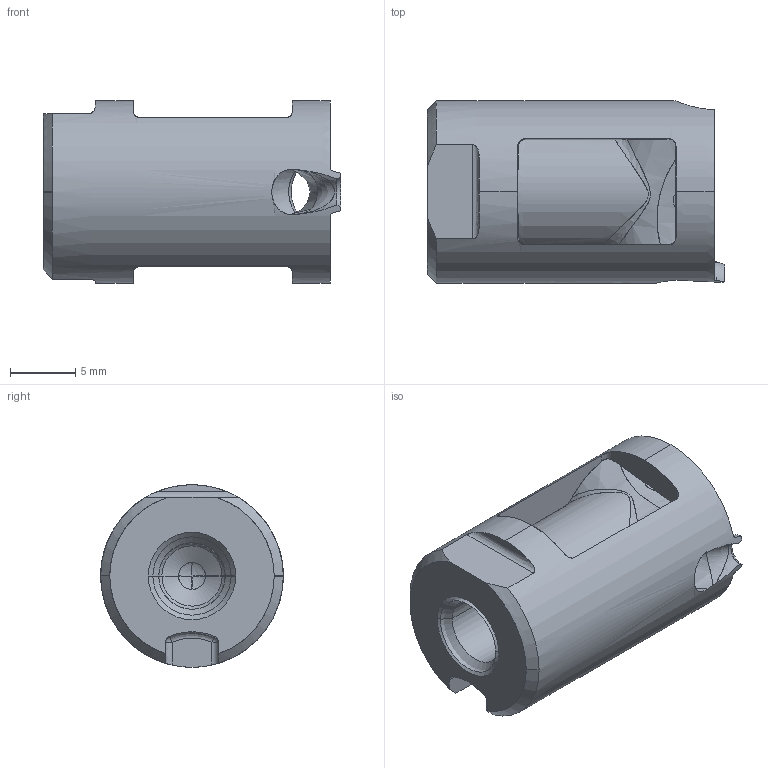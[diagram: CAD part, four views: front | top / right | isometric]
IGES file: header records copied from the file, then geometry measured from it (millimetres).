
Start section: START RECORD GO HERE.
Global section: file name: tgr14-20-s1.igs; native system: DASSAULT SYSTEMES CATIA V5 R20 - www.3ds.com; preprocessor: CATIA Version 5 Release 20 ; author: Utente; organization: NB04-ASUS; date: 20200417.224846; units: millimetre
Bounding box: 22.8 x 14 x 14 mm (x, y, z)
Surface area: 1982.9 mm2 (no closed solid volume)
Topology: 0 solids, 0 shells, 86 faces, 531 edges, 525 vertices
Faces by surface type: revolution 54, plane 18, bspline 14
